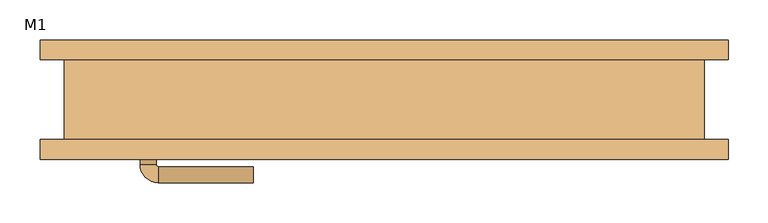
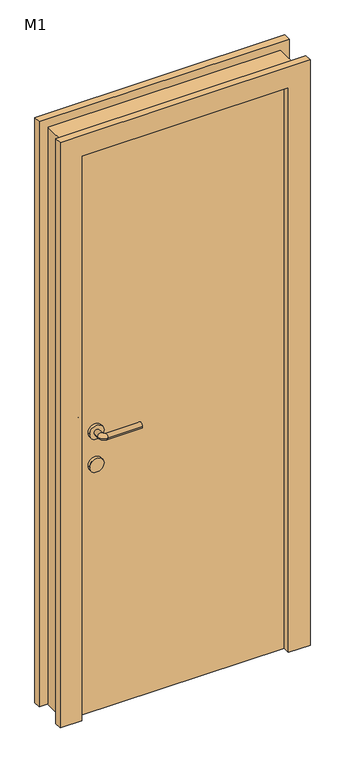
"""IFC4 building model written with IfcOpenShell, lengths in millimetres: door geometry, 单嵌板木门 1 : M1."""

from ifc_helpers import new_model, si_unit, point, frame, frame_2d, origin, origin_with_axes, place, context, project, spatial, polyline, circle_curve, ellipse_curve, trimmed, segment, composite_curve, outline, extrude, source, transform, mapped, element, save
from ifc_brep_helpers import plane_surface, cylinder_surface, revolved_surface, advanced_brep


def m1_5c1b1160(model_context):
    return source(origin(), model_context, "Body", "SolidModel", [
        extrude(outline(composite_curve([segment(trimmed(circle_curve(frame_2d((900.0, -295.0)), 25.0), [point((900.0, -270.0))], [point((900.0, -320.0))], False, "CARTESIAN"), True, "CONTINUOUS"), segment(trimmed(circle_curve(frame_2d((900.0, -295.0)), 25.0), [point((900.0, -320.0))], [point((900.0, -270.0))], False, "CARTESIAN"), True, "CONTINUOUS")], self_intersect=False)), frame((0.0, 0.0, 0.0), z_axis=(0.0, 1.0, 0.0), x_axis=(0.0, 0.0, 1.0)), (0.0, 0.0, 1.0), 10.0),
        extrude(outline(composite_curve([segment(trimmed(circle_curve(frame_2d((900.0, -295.0)), 25.0), [point((900.0, -270.0))], [point((900.0, -320.0))], False, "CARTESIAN"), True, "CONTINUOUS"), segment(trimmed(circle_curve(frame_2d((900.0, -295.0)), 25.0), [point((900.0, -320.0))], [point((900.0, -270.0))], False, "CARTESIAN"), True, "CONTINUOUS")], self_intersect=False)), frame((0.0, -60.0, 0.0), z_axis=(0.0, 1.0, 0.0), x_axis=(0.0, 0.0, 1.0)), (0.0, 0.0, 1.0), 10.0),
        advanced_brep(
        [(-305.0, 10.0, 1020.0), (-285.0, 10.0, 1020.0), (-305.0, 30.613355, 1020.0), (-285.0, 30.613355, 1020.0), (-163.419036, 53.580964, 1020.0), (-163.419036, 33.580964, 1020.0), (-282.0323911, 33.580964, 1020.0), (-282.0323911, 53.580964, 1020.0)],
        [
            (0, 1, circle_curve(frame((-295.0, 10.0, 1020.0), z_axis=(0.0, -1.0, 0.0), x_axis=(1.0, 0.0, 0.0)), 10.0)),
            (1, 0, circle_curve(frame((-295.0, 10.0, 1020.0), z_axis=(0.0, -1.0, 0.0), x_axis=(1.0, 0.0, 0.0)), 10.0)),
            (0, 2),
            (2, 3, circle_curve(frame((-295.0, 30.613355, 1020.0), z_axis=(0.0, -1.0, 0.0), x_axis=(1.0, 0.0, 0.0)), 10.0)),
            (3, 1),
            (3, 2, circle_curve(frame((-295.0, 30.613355, 1020.0), z_axis=(0.0, -1.0, 0.0), x_axis=(1.0, 0.0, 0.0)), 10.0)),
            (4, 5, circle_curve(frame((-163.419036, 43.580964, 1020.0), z_axis=(1.0, 0.0, 0.0), x_axis=(0.0, -1.0, 0.0)), 10.0)),
            (5, 4, circle_curve(frame((-163.419036, 43.580964, 1020.0), z_axis=(1.0, 0.0, 0.0), x_axis=(0.0, -1.0, 0.0)), 10.0)),
            (6, 7, circle_curve(frame((-282.0323911, 43.580964, 1020.0), z_axis=(-1.0, 0.0, 0.0), x_axis=(0.0, -1.0, 0.0)), 10.0)),
            (7, 2, circle_curve(frame((-282.0323911, 30.613355, 1020.0), z_axis=(0.0, 0.0, 1.0), x_axis=(-1.0, 0.0, 0.0)), 22.9676089)),
            (3, 6, circle_curve(frame((-282.0323911, 30.613355, 1020.0), z_axis=(0.0, 0.0, -1.0), x_axis=(-1.0, 0.0, 0.0)), 2.9676089)),
            (7, 6, circle_curve(frame((-282.0323911, 43.580964, 1020.0), z_axis=(-1.0, 0.0, 0.0), x_axis=(0.0, -1.0, 0.0)), 10.0)),
            (6, 5),
            (4, 7),
        ],
        [
            plane_surface(frame((-295.0, 10.0, 900.0), z_axis=(0.0, -1.0, 0.0), x_axis=(0.0, 0.0, 1.0))),
            cylinder_surface(frame((-295.0, 10.0, 1020.0), z_axis=(0.0, -1.0, 0.0), x_axis=(1.0, 0.0, 0.0)), 10.0),
            plane_surface(frame((-163.419036, 43.580964, 900.0), z_axis=(1.0, 0.0, 0.0), x_axis=(0.0, 0.0, 1.0))),
            revolved_surface(trimmed(ellipse_curve(frame((-295.0, 30.613355, 1020.0), z_axis=(0.0, 1.0, 0.0), x_axis=(1.0, 0.0, 0.0)), 10.0, 10.0), [point((-305.0, 30.613355, 1020.0))], [point((-285.0, 30.613355, 1020.0))], True, "CARTESIAN"), (-282.0323911, 30.613355, 900.0), (0.0, 0.0, 1.0)),
            revolved_surface(trimmed(ellipse_curve(frame((-295.0, 30.613355, 1020.0), z_axis=(0.0, 1.0, 0.0), x_axis=(1.0, 0.0, 0.0)), 10.0, 10.0), [point((-285.0, 30.613355, 1020.0))], [point((-305.0, 30.613355, 1020.0))], True, "CARTESIAN"), (-282.0323911, 30.613355, 900.0), (0.0, 0.0, 1.0)),
            cylinder_surface(frame((-282.0323911, 43.580964, 1020.0), z_axis=(-1.0, 0.0, 0.0), x_axis=(0.0, -1.0, 0.0)), 10.0),
        ],
        [
            (0, [[1, 2]]),
            (1, [[3, 4, 5, -1]]),
            (1, [[-5, 6, -3, -2]]),
            (2, [[7, 8]]),
            (3, [[9, 10, -6, 11]]),
            (4, [[12, -11, -4, -10]]),
            (5, [[13, -7, 14, -9]]),
            (5, [[-14, -8, -13, -12]]),
        ],
    ),
        extrude(outline(composite_curve([segment(trimmed(circle_curve(frame_2d((1020.0, -295.0)), 25.0), [point((1020.0, -270.0))], [point((1020.0, -320.0))], False, "CARTESIAN"), True, "CONTINUOUS"), segment(trimmed(circle_curve(frame_2d((1020.0, -295.0)), 25.0), [point((1020.0, -320.0))], [point((1020.0, -270.0))], False, "CARTESIAN"), True, "CONTINUOUS")], self_intersect=False)), frame((0.0, 0.0, 0.0), z_axis=(0.0, 1.0, 0.0), x_axis=(0.0, 0.0, 1.0)), (0.0, 0.0, 1.0), 10.0),
        advanced_brep(
        [(-285.0, -60.0, 1020.0), (-305.0, -60.0, 1020.0), (-305.0, -80.6133551, 1020.0), (-285.0, -80.6133551, 1020.0), (-163.419036, -83.580964, 1020.0), (-163.419036, -103.580964, 1020.0), (-282.0323911, -103.580964, 1020.0), (-282.0323911, -83.580964, 1020.0)],
        [
            (0, 1, circle_curve(frame((-295.0, -60.0, 1020.0), z_axis=(0.0, 1.0, 0.0), x_axis=(-1.0, 0.0, 0.0)), 10.0)),
            (1, 0, circle_curve(frame((-295.0, -60.0, 1020.0), z_axis=(0.0, 1.0, 0.0), x_axis=(-1.0, 0.0, 0.0)), 10.0)),
            (1, 2),
            (2, 3, circle_curve(frame((-295.0, -80.6133551, 1020.0), z_axis=(0.0, 1.0, 0.0), x_axis=(-1.0, 0.0, 0.0)), 10.0)),
            (3, 0),
            (3, 2, circle_curve(frame((-295.0, -80.6133551, 1020.0), z_axis=(0.0, 1.0, 0.0), x_axis=(-1.0, 0.0, 0.0)), 10.0)),
            (4, 5, circle_curve(frame((-163.419036, -93.580964, 1020.0), z_axis=(1.0, 0.0, 0.0), x_axis=(0.0, -1.0, 0.0)), 10.0)),
            (5, 4, circle_curve(frame((-163.419036, -93.580964, 1020.0), z_axis=(1.0, 0.0, 0.0), x_axis=(0.0, -1.0, 0.0)), 10.0)),
            (6, 7, circle_curve(frame((-282.0323911, -93.580964, 1020.0), z_axis=(-1.0, 0.0, 0.0), x_axis=(0.0, -1.0, 0.0)), 10.0)),
            (7, 3, circle_curve(frame((-282.0323911, -80.6133551, 1020.0), z_axis=(0.0, 0.0, -1.0), x_axis=(-1.0, 0.0, 0.0)), 2.9676089)),
            (2, 6, circle_curve(frame((-282.0323911, -80.6133551, 1020.0), z_axis=(0.0, 0.0, 1.0), x_axis=(-1.0, 0.0, 0.0)), 22.9676089)),
            (7, 6, circle_curve(frame((-282.0323911, -93.580964, 1020.0), z_axis=(-1.0, 0.0, 0.0), x_axis=(0.0, -1.0, 0.0)), 10.0)),
            (6, 5),
            (4, 7),
        ],
        [
            plane_surface(frame((-295.0, -60.0, 900.0), z_axis=(0.0, 1.0, 0.0), x_axis=(0.0, 0.0, 1.0))),
            cylinder_surface(frame((-295.0, -60.0, 1020.0), z_axis=(0.0, 1.0, 0.0), x_axis=(-1.0, 0.0, 0.0)), 10.0),
            plane_surface(frame((-163.419036, -93.580964, 900.0), z_axis=(1.0, 0.0, 0.0), x_axis=(0.0, 0.0, 1.0))),
            revolved_surface(trimmed(ellipse_curve(frame((-295.0, -80.6133551, 1020.0), z_axis=(0.0, -1.0, 0.0), x_axis=(-1.0, 0.0, 0.0)), 10.0, 10.0), [point((-285.0, -80.6133551, 1020.0))], [point((-305.0, -80.6133551, 1020.0))], True, "CARTESIAN"), (-282.0323911, -80.6133551, 900.0), (0.0, 0.0, -1.0)),
            revolved_surface(trimmed(ellipse_curve(frame((-295.0, -80.6133551, 1020.0), z_axis=(0.0, -1.0, 0.0), x_axis=(-1.0, 0.0, 0.0)), 10.0, 10.0), [point((-305.0, -80.6133551, 1020.0))], [point((-285.0, -80.6133551, 1020.0))], True, "CARTESIAN"), (-282.0323911, -80.6133551, 900.0), (0.0, 0.0, -1.0)),
            cylinder_surface(frame((-282.0323911, -93.580964, 1020.0), z_axis=(-1.0, 0.0, 0.0), x_axis=(0.0, -1.0, 0.0)), 10.0),
        ],
        [
            (0, [[1, 2]]),
            (1, [[3, 4, 5, -2]]),
            (1, [[-5, 6, -3, -1]]),
            (2, [[7, 8]]),
            (3, [[9, 10, -4, 11]]),
            (4, [[12, -11, -6, -10]]),
            (5, [[13, -7, 14, -9]]),
            (5, [[-14, -8, -13, -12]]),
        ],
    ),
        extrude(outline(composite_curve([segment(trimmed(circle_curve(frame_2d((1020.0, -295.0)), 25.0), [point((1020.0, -270.0))], [point((1020.0, -320.0))], False, "CARTESIAN"), True, "CONTINUOUS"), segment(trimmed(circle_curve(frame_2d((1020.0, -295.0)), 25.0), [point((1020.0, -320.0))], [point((1020.0, -270.0))], False, "CARTESIAN"), True, "CONTINUOUS")], self_intersect=False)), frame((0.0, -60.0, 0.0), z_axis=(0.0, 1.0, 0.0), x_axis=(0.0, 0.0, 1.0)), (0.0, 0.0, 1.0), 10.0),
        extrude(outline(polyline([(0.0, 430.0), (2130.0, 430.0), (2130.0, -430.0), (0.0, -430.0), (0.0, -355.0), (2055.0, -355.0), (2055.0, 355.0), (0.0, 355.0), (0.0, 430.0)])), frame((0.0, -75.0, 0.0), z_axis=(0.0, 1.0, 0.0), x_axis=(0.0, 0.0, 1.0)), (0.0, 0.0, 1.0), 25.0),
        extrude(outline(polyline([(2130.0, 430.0), (2130.0, -430.0), (0.0, -430.0), (0.0, -355.0), (2055.0, -355.0), (2055.0, 355.0), (0.0, 355.0), (0.0, 430.0), (2130.0, 430.0)])), frame((0.0, 50.0, 0.0), z_axis=(0.0, 1.0, 0.0), x_axis=(0.0, 0.0, 1.0)), (0.0, 0.0, 1.0), 25.0),
        extrude(outline(polyline([(355.0, 0.0), (355.0, -50.0), (-355.0, -50.0), (-355.0, 0.0), (355.0, 0.0)])), origin_with_axes(), (0.0, 0.0, 1.0), 2055.0),
        extrude(outline(polyline([(2100.0, -400.0), (0.0, -400.0), (0.0, -355.0), (2055.0, -355.0), (2055.0, 355.0), (0.0, 355.0), (0.0, 400.0), (2100.0, 400.0), (2100.0, -400.0)])), frame((0.0, -50.0, 0.0), z_axis=(0.0, 1.0, 0.0), x_axis=(0.0, 0.0, 1.0)), (0.0, 0.0, 1.0), 100.0),
    ])


if __name__ == "__main__":
    model = new_model("IFC4")
    model_context = context("Model", 3, world=origin())
    ifc_project = project(units=[si_unit("LENGTHUNIT", "METRE", prefix="MILLI")], contexts=[model_context])
    site = spatial("IfcSite", under=ifc_project)
    building = spatial("IfcBuilding", under=site)
    placement = place(None, origin())
    m1_shape = m1_5c1b1160(model_context)
    element("IfcDoor", 1, ObjectType="单嵌板木门 1 : M1", at=placement, inside=building, context=model_context, shape_type="MappedRepresentation", body=[
        mapped(m1_shape, transform((0.0, 0.0, 0.0), x_axis=(1.0, 0.0, 0.0), y_axis=(0.0, 1.0, 0.0), z_axis=(0.0, 0.0, 1.0))),
    ])
    save(model, "model.ifc")
